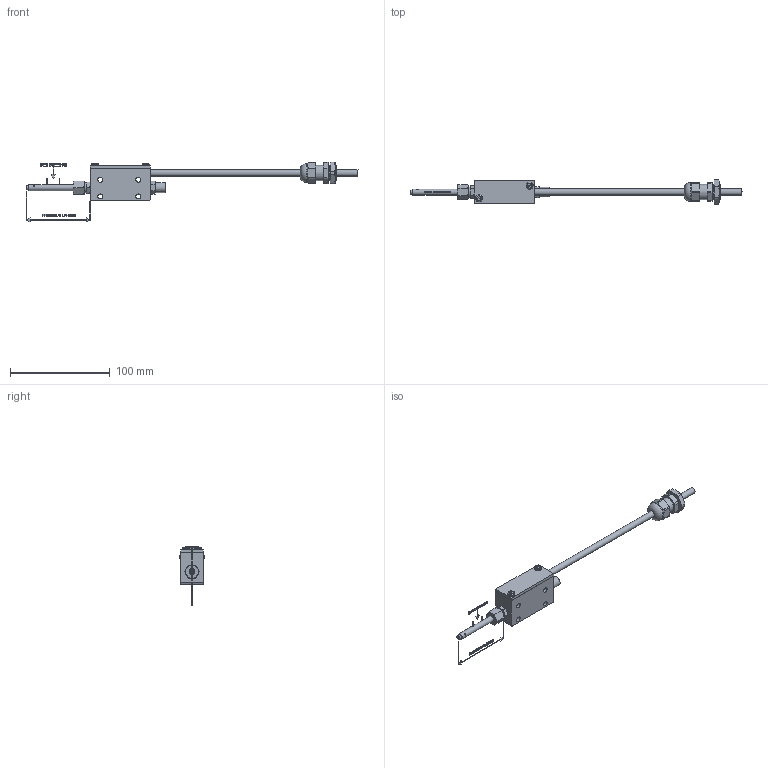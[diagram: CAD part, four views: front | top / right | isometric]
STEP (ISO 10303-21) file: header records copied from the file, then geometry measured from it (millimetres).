
FILE_DESCRIPTION(/* description */ (''),/* implementation_level */ '2;1');
FILE_NAME(/* name */ 'BW-1_4_3D_GB',/* time_stamp */ '2018-11-01T09:04:31+01:00',/* author */ (''),/* organization */ (''),/* preprocessor_version */ 'ST-DEVELOPER v16.5',/* originating_system */ 'HiCAD 2018 2302.0 Build 339',/* authorisation */ '');
FILE_SCHEMA (('AUTOMOTIVE_DESIGN { 1 0 10303 214 1 1 1 1 }'));
Length unit declared in the file: millimetre
Products named in the file (26): Root; -_BW-1/4" Assembly; -_Connector; 5055000100_Gland PG-9 Nylon UL complete; 9155000001_Wartel PG-9 Nylon UL; 9230004400_Moer PG-9 Nylon UL_1; Pg 9; -_PTFE; -_Ionising pin; -_Tube; -_Screw; UNC_A; 9290020050_Nippel dubbel 1/8G - 1/8NPT RVS; DIN_ISO_228-1; -_Cable; -_Body; UNC_B_1; UNC_B_2_2; DIN_76-2_1_2_2; DIN 76-G1/8; -_EFFECTIVE LENGTH; -_STRETCH TO DESIRED LENGTH
Assembly tree (25 placements, depth 5):
  Root
    -_BW-1/4" Assembly
      -_Connector
      5055000100_Gland PG-9 Nylon UL complete
        9155000001_Wartel PG-9 Nylon UL
        9230004400_Moer PG-9 Nylon UL_1
          Pg 9
      -_PTFE
      -_Ionising pin
      -_Tube
      -_Screw
        UNC_A
      9290020050_Nippel dubbel 1/8G - 1/8NPT RVS
        DIN_ISO_228-1
        DIN_ISO_228-1
      -_Cable
      -_Screw
        UNC_A
      -_Body
        UNC_B_1
        UNC_B_2_2
        DIN_76-2_1_2_2
        DIN 76-G1/8
        DIN 76-G1/8
      -_EFFECTIVE LENGTH
      -_STRETCH TO DESIRED LENGTH
Bounding box: 332.5 x 24.14 x 59.92 mm (x, y, z)
Volume: 60937.9 mm3; surface area: 31394.6 mm2
Topology: 52 solids, 52 shells, 634 faces, 1494 edges, 988 vertices
Faces by surface type: plane 465, cylinder 88, cone 41, bspline 27, torus 7, sphere 6
Full cylindrical faces by diameter (mm): 1.5 x1, 2 x1, 2.512 x8, 3.485 x5, 4 x1, 4.3 x2, 4.9 x4, 5 x3, 6 x2, 6.1 x2, 7 x2, 7.1 x1, 8 x1, 8.566 x4, 8.8 x4, 9 x1, 9.728 x6, 10 x1, 13.86 x1, 14.44 x2, 15.2 x4, 19 x1
Entity records: 30219 total; most frequent: CARTESIAN_POINT 4770, PRESENTATION_STYLE_ASSIGNMENT 2806, DIRECTION 2755, DRAUGHTING_PRE_DEFINED_CURVE_FONT 2754, CURVE_STYLE 2754, OVER_RIDING_STYLED_ITEM 2754, ORIENTED_EDGE 2754, EDGE_CURVE 1377
